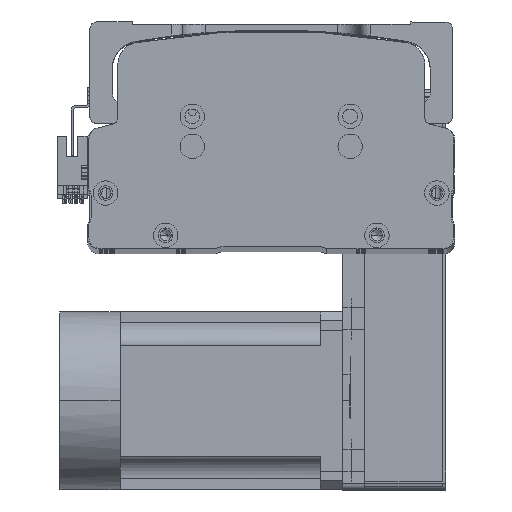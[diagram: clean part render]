
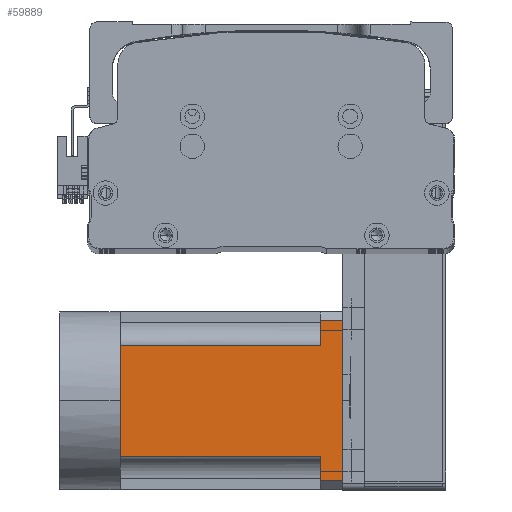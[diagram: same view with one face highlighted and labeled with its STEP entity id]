
A CAD part, top view. The second image highlights one B-rep face of the part: STEP entity #59889.
In plain terms, the highlighted planar face has unit normal (0, 0, 1) as drawn and (0, 0, -1) by its records, which use the part's own axes.
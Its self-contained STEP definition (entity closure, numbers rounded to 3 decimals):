
#2 = VECTOR ( 'NONE', #34604, 1000. ) ;
#719 = EDGE_CURVE ( 'NONE', #63925, #26632, #57027, .T. ) ;
#4883 = CARTESIAN_POINT ( 'NONE',  ( 36., -27., -40. ) ) ;
#6577 = CARTESIAN_POINT ( 'NONE',  ( -36., -27., -40. ) ) ;
#7134 = ORIENTED_EDGE ( 'NONE', *, *, #58592, .T. ) ;
#7310 = FACE_OUTER_BOUND ( 'NONE', #51966, .T. ) ;
#7722 = DIRECTION ( 'NONE',  ( -1., 0., 0. ) ) ;
#9523 = LINE ( 'NONE', #21952, #21507 ) ;
#10726 = LINE ( 'NONE', #59346, #36262 ) ;
#11594 = EDGE_CURVE ( 'NONE', #26632, #44174, #55337, .T. ) ;
#11670 = DIRECTION ( 'NONE',  ( 0., -1., 0. ) ) ;
#13216 = CARTESIAN_POINT ( 'NONE',  ( -25., 0., -40. ) ) ;
#13620 = LINE ( 'NONE', #6577, #34348 ) ;
#13712 = DIRECTION ( 'NONE',  ( -1., 0., 0. ) ) ;
#14336 = EDGE_CURVE ( 'NONE', #65456, #46993, #35906, .T. ) ;
#14719 = DIRECTION ( 'NONE',  ( -1., 0., 0. ) ) ;
#15623 = CARTESIAN_POINT ( 'NONE',  ( -40., 90., -40. ) ) ;
#15811 = ORIENTED_EDGE ( 'NONE', *, *, #11594, .T. ) ;
#17090 = ORIENTED_EDGE ( 'NONE', *, *, #14336, .F. ) ;
#21507 = VECTOR ( 'NONE', #11670, 1000. ) ;
#21952 = CARTESIAN_POINT ( 'NONE',  ( 25., -27., -40. ) ) ;
#22653 = VERTEX_POINT ( 'NONE', #43379 ) ;
#22910 = CARTESIAN_POINT ( 'NONE',  ( -40., 100., -40. ) ) ;
#24153 = VERTEX_POINT ( 'NONE', #47149 ) ;
#24343 = CARTESIAN_POINT ( 'NONE',  ( -25., 90., -40. ) ) ;
#25189 = EDGE_CURVE ( 'NONE', #65456, #44697, #51088, .T. ) ;
#25845 = EDGE_CURVE ( 'NONE', #44174, #46993, #13620, .T. ) ;
#26632 = VERTEX_POINT ( 'NONE', #24343 ) ;
#26670 = EDGE_CURVE ( 'NONE', #44697, #50134, #63530, .T. ) ;
#26695 = DIRECTION ( 'NONE',  ( -1., 0., 0. ) ) ;
#27164 = LINE ( 'NONE', #29448, #2 ) ;
#29448 = CARTESIAN_POINT ( 'NONE',  ( -40., 0., -40. ) ) ;
#30349 = CARTESIAN_POINT ( 'NONE',  ( -36., 100., -40. ) ) ;
#30676 = EDGE_CURVE ( 'NONE', #50134, #24153, #9523, .T. ) ;
#32998 = ORIENTED_EDGE ( 'NONE', *, *, #30676, .T. ) ;
#34348 = VECTOR ( 'NONE', #37160, 1000. ) ;
#34604 = DIRECTION ( 'NONE',  ( -1., 0., 0. ) ) ;
#35040 = CARTESIAN_POINT ( 'NONE',  ( -40., 90., -40. ) ) ;
#35906 = LINE ( 'NONE', #22910, #61337 ) ;
#35944 = VECTOR ( 'NONE', #66136, 1000. ) ;
#36262 = VECTOR ( 'NONE', #13712, 1000. ) ;
#37160 = DIRECTION ( 'NONE',  ( 0., 1., 0. ) ) ;
#38104 = ORIENTED_EDGE ( 'NONE', *, *, #44371, .T. ) ;
#40763 = ORIENTED_EDGE ( 'NONE', *, *, #26670, .T. ) ;
#41933 = AXIS2_PLACEMENT_3D ( 'NONE', #52077, #57183, #26695 ) ;
#42304 = CARTESIAN_POINT ( 'NONE',  ( 36., 90., -40. ) ) ;
#43379 = CARTESIAN_POINT ( 'NONE',  ( 0., 0., -40. ) ) ;
#43401 = VECTOR ( 'NONE', #51302, 1000. ) ;
#43481 = VECTOR ( 'NONE', #62759, 1000. ) ;
#44174 = VERTEX_POINT ( 'NONE', #47749 ) ;
#44371 = EDGE_CURVE ( 'NONE', #24153, #22653, #27164, .T. ) ;
#44630 = CARTESIAN_POINT ( 'NONE',  ( 25., 90., -40. ) ) ;
#44697 = VERTEX_POINT ( 'NONE', #42304 ) ;
#46993 = VERTEX_POINT ( 'NONE', #30349 ) ;
#47149 = CARTESIAN_POINT ( 'NONE',  ( 25., 0., -40. ) ) ;
#47749 = CARTESIAN_POINT ( 'NONE',  ( -36., 90., -40. ) ) ;
#48412 = VECTOR ( 'NONE', #14719, 1000. ) ;
#50134 = VERTEX_POINT ( 'NONE', #44630 ) ;
#50562 = CARTESIAN_POINT ( 'NONE',  ( 36., 100., -40. ) ) ;
#51088 = LINE ( 'NONE', #4883, #35944 ) ;
#51302 = DIRECTION ( 'NONE',  ( -1., 0., 0. ) ) ;
#51966 = EDGE_LOOP ( 'NONE', ( #17090, #52203, #40763, #32998, #38104, #7134, #58198, #15811, #62786 ) ) ;
#52077 = CARTESIAN_POINT ( 'NONE',  ( -40., -27., -40. ) ) ;
#52203 = ORIENTED_EDGE ( 'NONE', *, *, #25189, .T. ) ;
#55337 = LINE ( 'NONE', #15623, #43401 ) ;
#56975 = PLANE ( 'NONE',  #41933 ) ;
#57027 = LINE ( 'NONE', #57631, #43481 ) ;
#57183 = DIRECTION ( 'NONE',  ( 0., 0., -1. ) ) ;
#57631 = CARTESIAN_POINT ( 'NONE',  ( -25., -27., -40. ) ) ;
#58198 = ORIENTED_EDGE ( 'NONE', *, *, #719, .T. ) ;
#58592 = EDGE_CURVE ( 'NONE', #22653, #63925, #10726, .T. ) ;
#59346 = CARTESIAN_POINT ( 'NONE',  ( -40., 0., -40. ) ) ;
#59889 = ADVANCED_FACE ( 'NONE', ( #7310 ), #56975, .T. ) ;
#61337 = VECTOR ( 'NONE', #7722, 1000. ) ;
#62759 = DIRECTION ( 'NONE',  ( 0., 1., 0. ) ) ;
#62786 = ORIENTED_EDGE ( 'NONE', *, *, #25845, .T. ) ;
#63530 = LINE ( 'NONE', #35040, #48412 ) ;
#63925 = VERTEX_POINT ( 'NONE', #13216 ) ;
#65456 = VERTEX_POINT ( 'NONE', #50562 ) ;
#66136 = DIRECTION ( 'NONE',  ( 0., -1., 0. ) ) ;
